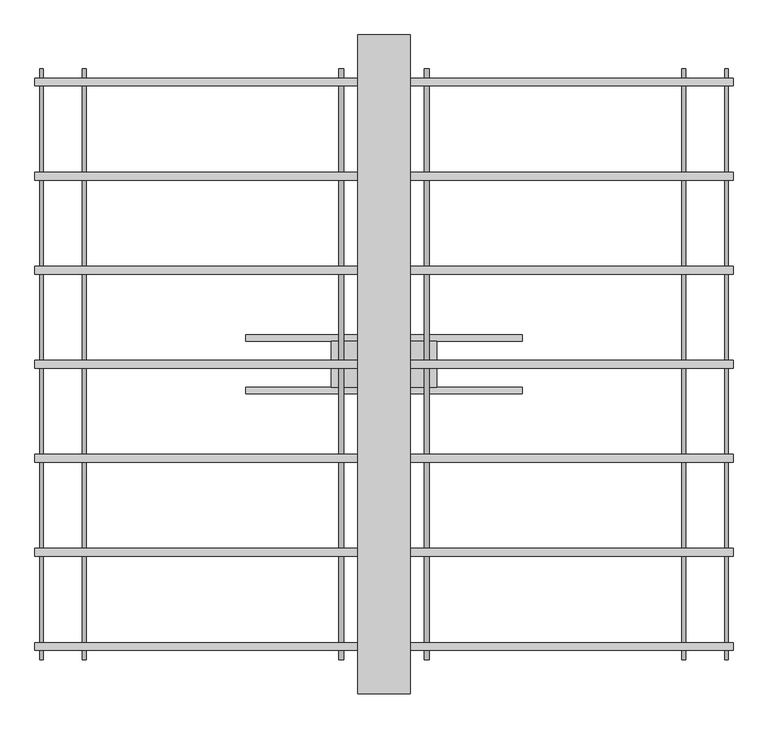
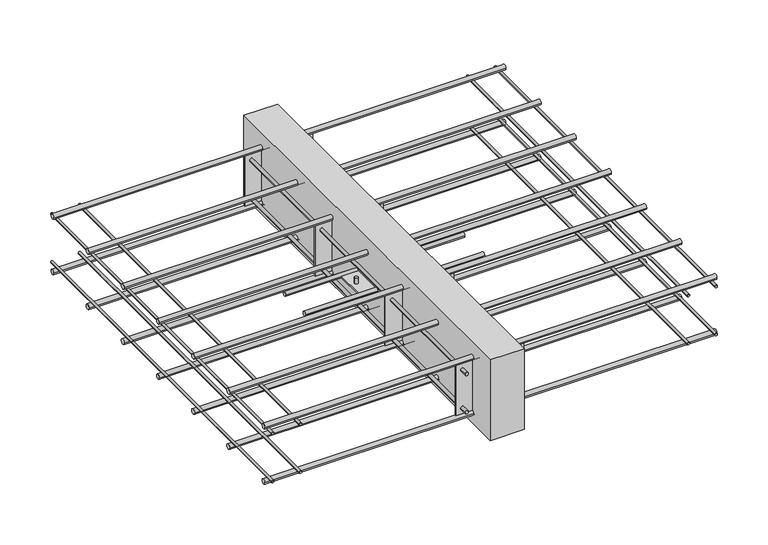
"""IFC4 building model written with IfcOpenShell, lengths in millimetres: fastener geometry, ACINOXplus_Typenreihe_M : ME+ S1."""

import ifcopenshell
import ifcopenshell.guid

model = None  # the IFC model being written
_history = None  # IfcOwnerHistory: only IFC2X3 demands one
_inside = {}  # id of a spatial element -> (the spatial element, [elements in it])
_under = {}  # id of a project, library or spatial element -> (it, [spatial elements below it])
_declared = {}  # id of a project -> (the project, [libraries it declares])
_typed = {}  # id of a type object -> (the type object, [elements of that type])
_made_of = {}  # id of a material, layer set ... -> (it, [elements and type objects made of it])


def new_model(schema):
    """Start an empty IFC model of exactly this schema.

    Asked for "IFC4X3", IfcOpenShell would pick the latest addendum, in which some entities
    have other attributes; the version numbers below select the first issue.
    IFC2X3 requires an IfcOwnerHistory on every rooted entity: one is made here for all.
    """
    global model, _history
    if schema == "IFC4X3":
        model = ifcopenshell.file(schema_version=(4, 3, 0, 0))
    else:
        model = ifcopenshell.file(schema=schema)
    _inside.clear()
    _under.clear()
    _declared.clear()
    _typed.clear()
    _made_of.clear()
    _history = None
    if model.schema == "IFC2X3":
        org = make("IfcOrganization", Name="unknown")
        user = make(
            "IfcPersonAndOrganization",
            ThePerson=make("IfcPerson", FamilyName="unknown"),
            TheOrganization=org,
        )
        app = make(
            "IfcApplication",
            ApplicationDeveloper=org,
            Version="unknown",
            ApplicationFullName="unknown",
            ApplicationIdentifier="unknown",
        )
        _history = make(
            "IfcOwnerHistory",
            OwningUser=user,
            OwningApplication=app,
            ChangeAction="ADDED",
            CreationDate=0,
        )
    return model


def make(cls, **values):
    """One entity of the class cls with the attributes given. An attribute that is None is left unset."""
    return model.create_entity(
        cls, **{name: value for name, value in values.items() if value is not None}
    )


def rooted(cls, **values):
    """An entity with a GlobalId (a new one), such as an element, a storey or a relation."""
    return make(cls, GlobalId=ifcopenshell.guid.new(), OwnerHistory=_history, **values)


def si_unit(unit_type, name, prefix=None):
    """IfcSIUnit, for example si_unit("LENGTHUNIT", "METRE", prefix="MILLI")."""
    return make("IfcSIUnit", UnitType=unit_type, Prefix=prefix, Name=name)


def assignment(units):
    """IfcUnitAssignment: the units of a project."""
    return None if units is None else make("IfcUnitAssignment", Units=units)


def point(xyz):
    """IfcCartesianPoint."""
    return None if xyz is None else make("IfcCartesianPoint", Coordinates=xyz)


def direction(xyz):
    """IfcDirection."""
    return None if xyz is None else make("IfcDirection", DirectionRatios=xyz)


def frame(location, z_axis=None, x_axis=None):
    """IfcAxis2Placement3D, a coordinate frame: its origin and axes. An axis left out is left unset."""
    return make(
        "IfcAxis2Placement3D",
        Location=point(location),
        Axis=direction(z_axis),
        RefDirection=direction(x_axis),
    )


def frame_2d(location, x_axis=None):
    """IfcAxis2Placement2D, a coordinate frame in the plane: its origin and x axis."""
    return make(
        "IfcAxis2Placement2D", Location=point(location), RefDirection=direction(x_axis)
    )


def origin():
    """The frame at (0, 0, 0) with its axes left unset."""
    return frame((0.0, 0.0, 0.0))


def place(relative_to, where):
    """IfcLocalPlacement: puts the frame where relative to a parent placement (None: the world)."""
    return make(
        "IfcLocalPlacement", PlacementRelTo=relative_to, RelativePlacement=where
    )


def context(
    kind, dimensions, precision=None, world=None, true_north=None, identifier=None
):
    """IfcGeometricRepresentationContext, for example the 3D "Model" context."""
    return make(
        "IfcGeometricRepresentationContext",
        ContextIdentifier=identifier,
        ContextType=kind,
        CoordinateSpaceDimension=dimensions,
        Precision=precision,
        WorldCoordinateSystem=world,
        TrueNorth=true_north,
    )


def project(units=None, contexts=None):
    """IfcProject with its units and contexts."""
    return rooted(
        "IfcProject",
        Name="project",
        RepresentationContexts=contexts,
        UnitsInContext=assignment(units),
    )


def spatial(cls, under=None, at=None, **own):
    """A site, building, storey or space (cls), placed at a placement, below another one or the project."""
    s = rooted(cls, ObjectPlacement=at, **own)
    if under is not None:
        _under.setdefault(under.id(), (under, []))[1].append(s)
    return s


def polyline(points):
    """IfcPolyline through the points."""
    return make("IfcPolyline", Points=[point(p) for p in points])


def circle_curve(where, radius):
    """IfcCircle in the frame where."""
    return make("IfcCircle", Position=where, Radius=radius)


def trimmed(basis, trim1, trim2, sense, master):
    """IfcTrimmedCurve: the piece of a basis curve between two trims."""
    return make(
        "IfcTrimmedCurve",
        BasisCurve=basis,
        Trim1=trim1,
        Trim2=trim2,
        SenseAgreement=sense,
        MasterRepresentation=master,
    )


def segment(curve, same_sense, transition):
    """IfcCompositeCurveSegment."""
    return make(
        "IfcCompositeCurveSegment",
        Transition=transition,
        SameSense=same_sense,
        ParentCurve=curve,
    )


def composite_curve(segments, self_intersect=None):
    """IfcCompositeCurve: segments joined end to end."""
    return make("IfcCompositeCurve", Segments=segments, SelfIntersect=self_intersect)


def outline(outer, holes=None, kind="AREA"):
    """IfcArbitraryClosedProfileDef: a profile drawn as a closed curve; with holes, ...WithVoids."""
    if holes is None:
        return make("IfcArbitraryClosedProfileDef", ProfileType=kind, OuterCurve=outer)
    return make(
        "IfcArbitraryProfileDefWithVoids",
        ProfileType=kind,
        OuterCurve=outer,
        InnerCurves=holes,
    )


def extrude(swept, where, along, depth):
    """IfcExtrudedAreaSolid: the profile swept, set in the frame where, extruded along a direction by depth."""
    return make(
        "IfcExtrudedAreaSolid",
        SweptArea=swept,
        Position=where,
        ExtrudedDirection=direction(along),
        Depth=depth,
    )


def shape(context_of_items, identifier, shape_type, items):
    """IfcShapeRepresentation: the items that make up one representation, for example the "Body"."""
    return make(
        "IfcShapeRepresentation",
        ContextOfItems=context_of_items,
        RepresentationIdentifier=identifier,
        RepresentationType=shape_type,
        Items=items,
    )


def source(mapping_origin, context_of_items, identifier, shape_type, items):
    """IfcRepresentationMap: a shape defined once, which mapped items show again and again."""
    return make(
        "IfcRepresentationMap",
        MappingOrigin=mapping_origin,
        MappedRepresentation=shape(context_of_items, identifier, shape_type, items),
    )


def transform(
    local_origin,
    x_axis=None,
    y_axis=None,
    z_axis=None,
    scale=None,
    scale2=None,
    scale3=None,
    uniform=True,
):
    """IfcCartesianTransformationOperator3D, or its non-uniform kind. x_axis, y_axis, z_axis: its Axis1, 2, 3."""
    if uniform:
        return make(
            "IfcCartesianTransformationOperator3D",
            Axis1=direction(x_axis),
            Axis2=direction(y_axis),
            LocalOrigin=point(local_origin),
            Scale=scale,
            Axis3=direction(z_axis),
        )
    return make(
        "IfcCartesianTransformationOperator3DnonUniform",
        Axis1=direction(x_axis),
        Axis2=direction(y_axis),
        LocalOrigin=point(local_origin),
        Scale=scale,
        Axis3=direction(z_axis),
        Scale2=scale2,
        Scale3=scale3,
    )


def mapped(mapping_source, mapping_target):
    """IfcMappedItem: shows the shape of a source again, moved by a transform."""
    return make(
        "IfcMappedItem", MappingSource=mapping_source, MappingTarget=mapping_target
    )


def made_of(thing, what):
    """Note that an element or type object is made of a material, layer set ...; save() writes the relation."""
    if what is not None:
        _made_of.setdefault(what.id(), (what, []))[1].append(thing)
    return thing


def element(
    cls,
    number,
    at=None,
    inside=None,
    cuts=None,
    type_object=None,
    material=None,
    context=None,
    identifier="Body",
    shape_type=None,
    held_by="IfcProductDefinitionShape",
    body=None,
    shapes=None,
    **own,
):
    """One element of the class cls, such as IfcWall. Its Tag is "e" and its number.

    at: its placement. inside: the storey or other place that contains it. cuts: it is an
    opening in that element (IfcRelVoidsElement). A single representation is given by context,
    identifier, shape_type and body (its items); several are given by shapes. held_by: the class
    of the entity that holds the representations. save() writes the other relations.
    """
    e = rooted(cls, Tag="e%d" % number, ObjectPlacement=at, **own)
    if body is not None:
        shapes = [shape(context, identifier, shape_type, body)]
    if shapes is not None:
        e.Representation = make(held_by, Representations=shapes)
    if inside is not None:
        _inside.setdefault(inside.id(), (inside, []))[1].append(e)
    if cuts is not None:
        rooted(
            "IfcRelVoidsElement", RelatingBuildingElement=cuts, RelatedOpeningElement=e
        )
    if type_object is not None:
        _typed.setdefault(type_object.id(), (type_object, []))[1].append(e)
    return made_of(e, material)


def aggregate(whole, parts):
    """IfcRelAggregates: a whole, such as a stair, and the parts it consists of."""
    return rooted("IfcRelAggregates", RelatingObject=whole, RelatedObjects=parts)


def save(model, path):
    """Write the relations noted so far, then the file.

    IfcRelAggregates (storeys below a building ...), IfcRelContainedInSpatialStructure (elements
    in a storey), IfcRelDefinesByType, IfcRelAssociatesMaterial and IfcRelDeclares: one each for
    every whole, place, type object, material and project.
    """
    for whole, parts in _under.values():
        aggregate(whole, parts)
    for where, things in _inside.values():
        rooted(
            "IfcRelContainedInSpatialStructure",
            RelatedElements=things,
            RelatingStructure=where,
        )
    for kind, things in _typed.values():
        rooted("IfcRelDefinesByType", RelatedObjects=things, RelatingType=kind)
    for what, things in _made_of.values():
        rooted("IfcRelAssociatesMaterial", RelatedObjects=things, RelatingMaterial=what)
    for by, libraries in _declared.values():
        rooted("IfcRelDeclares", RelatingContext=by, RelatedDefinitions=libraries)
    model.write(path)


def plane_surface(at):
    """IfcPlane: the flat surface through the origin of the frame at, square to its z axis."""
    return make("IfcPlane", Position=at)


def cylinder_surface(at, radius):
    """IfcCylindricalSurface: all points at the distance radius from the z axis of the frame at."""
    return make("IfcCylindricalSurface", Position=at, Radius=radius)


def advanced_brep(points, edges, surfaces, faces):
    """IfcAdvancedBrep: a solid bounded by faces that lie on surfaces and meet in shared edges.

    An edge is (start, end): straight between two places in points (the first is 0);
    or (start, end, curve); or (start, end, curve, False) where it runs against its curve.
    A face is (place in surfaces, loops), or (place, loops, False) where it looks against
    its surface's normal. A loop lists edges by number (the first is 1), with a minus sign
    where the edge is run from its end to its start. The first loop is the outer one.
    """
    corners = [point(p) for p in points]
    vertices = [make("IfcVertexPoint", VertexGeometry=c) for c in corners]
    made = []
    for start, end, *more in edges:
        made.append(
            make(
                "IfcEdgeCurve",
                EdgeStart=vertices[start],
                EdgeEnd=vertices[end],
                EdgeGeometry=more[0] if more else make("IfcPolyline", Points=[corners[start], corners[end]]),
                SameSense=more[1] if len(more) > 1 else True,
            )
        )
    hull = []
    for where, loops, *sense in faces:
        bounds = []
        for j, loop in enumerate(loops):
            ring = [make("IfcOrientedEdge", EdgeElement=made[abs(k) - 1], Orientation=k > 0) for k in loop]
            bounds.append(
                make(
                    "IfcFaceOuterBound" if j == 0 else "IfcFaceBound",
                    Bound=make("IfcEdgeLoop", EdgeList=ring),
                    Orientation=True,
                )
            )
        hull.append(make("IfcAdvancedFace", Bounds=bounds, FaceSurface=surfaces[where], SameSense=sense[0] if sense else True))
    return make("IfcAdvancedBrep", Outer=make("IfcClosedShell", CfsFaces=hull))


def fastener_d85a7dbb(model_context):
    return source(origin(), model_context, "Body", "SolidModel", [
        extrude(outline(polyline([(40.0, 500.0), (40.0, -500.0), (-40.0, -500.0), (-40.0, 500.0), (40.0, 500.0)])), frame((0.0, 0.0, -200.0), z_axis=(0.0, 0.0, 1.0), x_axis=(1.0, 0.0, 0.0)), (0.0, 0.0, 1.0), 200.0),
        extrude(outline(composite_curve([segment(trimmed(circle_curve(frame_2d((-40.0, -104.5)), 5.0), [point((-45.0, -104.5))], [point((-35.0, -104.5))], False, "CARTESIAN"), True, "CONTINUOUS"), segment(trimmed(circle_curve(frame_2d((-40.0, -104.5)), 5.0), [point((-35.0, -104.5))], [point((-45.0, -104.5))], False, "CARTESIAN"), True, "CONTINUOUS")], self_intersect=False)), frame((-210.0, 0.0, 0.0), z_axis=(1.0, 0.0, 0.0), x_axis=(0.0, 1.0, 0.0)), (0.0, 0.0, 1.0), 420.0),
        extrude(outline(composite_curve([segment(trimmed(circle_curve(frame_2d((40.0, -104.5)), 5.0), [point((35.0, -104.5))], [point((45.0, -104.5))], False, "CARTESIAN"), True, "CONTINUOUS"), segment(trimmed(circle_curve(frame_2d((40.0, -104.5)), 5.0), [point((45.0, -104.5))], [point((35.0, -104.5))], False, "CARTESIAN"), True, "CONTINUOUS")], self_intersect=False)), frame((-210.0, 0.0, 0.0), z_axis=(1.0, 0.0, 0.0), x_axis=(0.0, 1.0, 0.0)), (0.0, 0.0, 1.0), 420.0),
        advanced_brep(
        [(-69.0, 0.0, -89.5), (-61.0, 0.0, -89.5), (61.0, 0.0, -89.5), (69.0, 0.0, -89.5), (-69.0, 0.0, -119.5), (-61.0, 0.0, -119.5), (61.0, 0.0, -119.5), (69.0, 0.0, -119.5), (-69.0, 0.0, -103.0), (-61.0, 0.0, -103.0), (-61.0, 0.0, -106.0), (-69.0, 0.0, -106.0), (61.0, 0.0, -103.0), (69.0, 0.0, -103.0), (69.0, 0.0, -106.0), (61.0, 0.0, -106.0), (80.0, 35.0, -103.0), (-80.0, 35.0, -103.0), (-80.0, -35.0, -103.0), (80.0, -35.0, -103.0), (80.0, 35.0, -106.0), (80.0, -35.0, -106.0), (-80.0, -35.0, -106.0), (-80.0, 35.0, -106.0)],
        [
            (0, 1, circle_curve(frame((-65.0, 0.0, -89.5), z_axis=(0.0, 0.0, 1.0), x_axis=(1.0, 0.0, 0.0)), 4.0)),
            (1, 0, circle_curve(frame((-65.0, 0.0, -89.5), z_axis=(0.0, 0.0, 1.0), x_axis=(1.0, 0.0, 0.0)), 4.0)),
            (2, 3, circle_curve(frame((65.0, 0.0, -89.5), z_axis=(0.0, 0.0, 1.0), x_axis=(1.0, 0.0, 0.0)), 4.0)),
            (3, 2, circle_curve(frame((65.0, 0.0, -89.5), z_axis=(0.0, 0.0, 1.0), x_axis=(1.0, 0.0, 0.0)), 4.0)),
            (4, 5, circle_curve(frame((-65.0, 0.0, -119.5), z_axis=(0.0, 0.0, -1.0), x_axis=(1.0, 0.0, 0.0)), 4.0)),
            (5, 4, circle_curve(frame((-65.0, 0.0, -119.5), z_axis=(0.0, 0.0, -1.0), x_axis=(1.0, 0.0, 0.0)), 4.0)),
            (6, 7, circle_curve(frame((65.0, 0.0, -119.5), z_axis=(0.0, 0.0, -1.0), x_axis=(1.0, 0.0, 0.0)), 4.0)),
            (7, 6, circle_curve(frame((65.0, 0.0, -119.5), z_axis=(0.0, 0.0, -1.0), x_axis=(1.0, 0.0, 0.0)), 4.0)),
            (0, 8),
            (8, 9, circle_curve(frame((-65.0, 0.0, -103.0), z_axis=(0.0, 0.0, 1.0), x_axis=(1.0, 0.0, 0.0)), 4.0)),
            (9, 1),
            (5, 10),
            (10, 11, circle_curve(frame((-65.0, 0.0, -106.0), z_axis=(0.0, 0.0, -1.0), x_axis=(1.0, 0.0, 0.0)), 4.0)),
            (11, 4),
            (9, 8, circle_curve(frame((-65.0, 0.0, -103.0), z_axis=(0.0, 0.0, 1.0), x_axis=(1.0, 0.0, 0.0)), 4.0)),
            (11, 10, circle_curve(frame((-65.0, 0.0, -106.0), z_axis=(0.0, 0.0, -1.0), x_axis=(1.0, 0.0, 0.0)), 4.0)),
            (2, 12),
            (12, 13, circle_curve(frame((65.0, 0.0, -103.0), z_axis=(0.0, 0.0, 1.0), x_axis=(1.0, 0.0, 0.0)), 4.0)),
            (13, 3),
            (7, 14),
            (14, 15, circle_curve(frame((65.0, 0.0, -106.0), z_axis=(0.0, 0.0, -1.0), x_axis=(1.0, 0.0, 0.0)), 4.0)),
            (15, 6),
            (13, 12, circle_curve(frame((65.0, 0.0, -103.0), z_axis=(0.0, 0.0, 1.0), x_axis=(1.0, 0.0, 0.0)), 4.0)),
            (15, 14, circle_curve(frame((65.0, 0.0, -106.0), z_axis=(0.0, 0.0, -1.0), x_axis=(1.0, 0.0, 0.0)), 4.0)),
            (16, 17),
            (17, 18),
            (18, 19),
            (19, 16),
            (20, 21),
            (21, 22),
            (22, 23),
            (23, 20),
            (16, 20),
            (23, 17),
            (22, 18),
            (21, 19),
        ],
        [
            plane_surface(frame((-61.0, 0.0, -89.5), z_axis=(0.0, 0.0, 1.0), x_axis=(0.0, 1.0, 0.0))),
            plane_surface(frame((-61.0, 0.0, -119.5), z_axis=(0.0, 0.0, -1.0), x_axis=(0.0, -1.0, 0.0))),
            cylinder_surface(frame((-65.0, 0.0, -119.5), z_axis=(0.0, 0.0, 1.0), x_axis=(1.0, 0.0, 0.0)), 4.0),
            cylinder_surface(frame((65.0, 0.0, -104.5), z_axis=(0.0, 0.0, 1.0), x_axis=(1.0, 0.0, 0.0)), 4.0),
            plane_surface(frame((-80.0, 35.0, -103.0), z_axis=(0.0, 0.0, 1.0), x_axis=(-1.0, 0.0, 0.0))),
            plane_surface(frame((-80.0, 35.0, -106.0), z_axis=(0.0, 0.0, -1.0), x_axis=(1.0, 0.0, 0.0))),
            plane_surface(frame((80.0, 35.0, -103.0), z_axis=(0.0, 1.0, 0.0), x_axis=(0.0, 0.0, -1.0))),
            plane_surface(frame((-80.0, 35.0, -103.0), z_axis=(-1.0, 0.0, 0.0), x_axis=(0.0, 0.0, -1.0))),
            plane_surface(frame((-80.0, -35.0, -103.0), z_axis=(0.0, -1.0, 0.0), x_axis=(0.0, 0.0, -1.0))),
            plane_surface(frame((80.0, -35.0, -103.0), z_axis=(1.0, 0.0, 0.0), x_axis=(0.0, 0.0, -1.0))),
        ],
        [
            (0, [[1, 2]]),
            (0, [[3, 4]]),
            (1, [[5, 6]]),
            (1, [[7, 8]]),
            (2, [[-1, 9, 10, 11]]),
            (2, [[-6, 12, 13, 14]]),
            (2, [[-2, -11, 15, -9]]),
            (2, [[-5, -14, 16, -12]]),
            (3, [[-3, 17, 18, 19]]),
            (3, [[-8, 20, 21, 22]]),
            (3, [[-4, -19, 23, -17]]),
            (3, [[-7, -22, 24, -20]]),
            (4, [[25, 26, 27, 28], [-10, -15], [-18, -23]]),
            (5, [[29, 30, 31, 32], [-13, -16], [-21, -24]]),
            (6, [[-25, 33, -32, 34]]),
            (7, [[-26, -34, -31, 35]]),
            (8, [[-27, -35, -30, 36]]),
            (9, [[-28, -36, -29, -33]]),
        ],
    ),
        extrude(outline(polyline([(80.0, -141.3571429), (80.0, -144.3571429), (-80.0, -144.3571429), (-80.0, -141.3571429), (80.0, -141.3571429)])), frame((0.0, 0.0, -167.0), z_axis=(0.0, 0.0, 1.0), x_axis=(1.0, 0.0, 0.0)), (0.0, 0.0, 1.0), 125.0),
        extrude(outline(polyline([(80.0, 144.3571429), (80.0, 141.3571429), (-80.0, 141.3571429), (-80.0, 144.3571429), (80.0, 144.3571429)])), frame((0.0, 0.0, -167.0), z_axis=(0.0, 0.0, 1.0), x_axis=(1.0, 0.0, 0.0)), (0.0, 0.0, 1.0), 125.0),
        extrude(outline(polyline([(80.0, -427.0714286), (80.0, -430.0714286), (-80.0, -430.0714286), (-80.0, -427.0714286), (80.0, -427.0714286)])), frame((0.0, 0.0, -167.0), z_axis=(0.0, 0.0, 1.0), x_axis=(1.0, 0.0, 0.0)), (0.0, 0.0, 1.0), 125.0),
        extrude(outline(polyline([(80.0, 430.0714286), (80.0, 427.0714286), (-80.0, 427.0714286), (-80.0, 430.0714286), (80.0, 430.0714286)])), frame((0.0, 0.0, -167.0), z_axis=(0.0, 0.0, 1.0), x_axis=(1.0, 0.0, 0.0)), (0.0, 0.0, 1.0), 125.0),
        extrude(outline(composite_curve([segment(trimmed(circle_curve(frame_2d((-152.0, -65.0)), 4.0), [point((-152.0, -61.0))], [point((-152.0, -69.0))], False, "CARTESIAN"), True, "CONTINUOUS"), segment(trimmed(circle_curve(frame_2d((-152.0, -65.0)), 4.0), [point((-152.0, -69.0))], [point((-152.0, -61.0))], False, "CARTESIAN"), True, "CONTINUOUS")], self_intersect=False)), frame((0.0, -448.5714286, 0.0), z_axis=(0.0, 1.0, 0.0), x_axis=(0.0, 0.0, 1.0)), (0.0, 0.0, 1.0), 18.5),
        extrude(outline(composite_curve([segment(trimmed(circle_curve(frame_2d((-152.0, -65.0)), 4.0), [point((-152.0, -69.0))], [point((-152.0, -61.0))], False, "CARTESIAN"), True, "CONTINUOUS"), segment(trimmed(circle_curve(frame_2d((-152.0, -65.0)), 4.0), [point((-152.0, -61.0))], [point((-152.0, -69.0))], False, "CARTESIAN"), True, "CONTINUOUS")], self_intersect=False)), frame((0.0, -427.0714286, 0.0), z_axis=(0.0, 1.0, 0.0), x_axis=(0.0, 0.0, 1.0)), (0.0, 0.0, 1.0), 568.4285714),
        extrude(outline(composite_curve([segment(trimmed(circle_curve(frame_2d((-152.0, -65.0)), 4.0), [point((-152.0, -69.0))], [point((-152.0, -61.0))], False, "CARTESIAN"), True, "CONTINUOUS"), segment(trimmed(circle_curve(frame_2d((-152.0, -65.0)), 4.0), [point((-152.0, -61.0))], [point((-152.0, -69.0))], False, "CARTESIAN"), True, "CONTINUOUS")], self_intersect=False)), frame((0.0, 430.0714286, 0.0), z_axis=(0.0, 1.0, 0.0), x_axis=(0.0, 0.0, 1.0)), (0.0, 0.0, 1.0), 18.5),
        extrude(outline(composite_curve([segment(trimmed(circle_curve(frame_2d((-152.0, -65.0)), 4.0), [point((-152.0, -69.0))], [point((-152.0, -61.0))], False, "CARTESIAN"), True, "CONTINUOUS"), segment(trimmed(circle_curve(frame_2d((-152.0, -65.0)), 4.0), [point((-152.0, -61.0))], [point((-152.0, -69.0))], False, "CARTESIAN"), True, "CONTINUOUS")], self_intersect=False)), frame((0.0, 144.3571429, 0.0), z_axis=(0.0, 1.0, 0.0), x_axis=(0.0, 0.0, 1.0)), (0.0, 0.0, 1.0), 282.7142857),
        extrude(outline(composite_curve([segment(trimmed(circle_curve(frame_2d((-152.0, 65.0)), 4.0), [point((-152.0, 69.0))], [point((-152.0, 61.0))], False, "CARTESIAN"), True, "CONTINUOUS"), segment(trimmed(circle_curve(frame_2d((-152.0, 65.0)), 4.0), [point((-152.0, 61.0))], [point((-152.0, 69.0))], False, "CARTESIAN"), True, "CONTINUOUS")], self_intersect=False)), frame((0.0, -448.5714286, 0.0), z_axis=(0.0, 1.0, 0.0), x_axis=(0.0, 0.0, 1.0)), (0.0, 0.0, 1.0), 18.5),
        extrude(outline(composite_curve([segment(trimmed(circle_curve(frame_2d((-152.0, 65.0)), 4.0), [point((-152.0, 61.0))], [point((-152.0, 69.0))], False, "CARTESIAN"), True, "CONTINUOUS"), segment(trimmed(circle_curve(frame_2d((-152.0, 65.0)), 4.0), [point((-152.0, 69.0))], [point((-152.0, 61.0))], False, "CARTESIAN"), True, "CONTINUOUS")], self_intersect=False)), frame((0.0, -427.0714286, 0.0), z_axis=(0.0, 1.0, 0.0), x_axis=(0.0, 0.0, 1.0)), (0.0, 0.0, 1.0), 568.4285714),
        extrude(outline(composite_curve([segment(trimmed(circle_curve(frame_2d((-152.0, 65.0)), 4.0), [point((-152.0, 61.0))], [point((-152.0, 69.0))], False, "CARTESIAN"), True, "CONTINUOUS"), segment(trimmed(circle_curve(frame_2d((-152.0, 65.0)), 4.0), [point((-152.0, 69.0))], [point((-152.0, 61.0))], False, "CARTESIAN"), True, "CONTINUOUS")], self_intersect=False)), frame((0.0, 430.0714286, 0.0), z_axis=(0.0, 1.0, 0.0), x_axis=(0.0, 0.0, 1.0)), (0.0, 0.0, 1.0), 18.5),
        extrude(outline(composite_curve([segment(trimmed(circle_curve(frame_2d((-152.0, 65.0)), 4.0), [point((-152.0, 61.0))], [point((-152.0, 69.0))], False, "CARTESIAN"), True, "CONTINUOUS"), segment(trimmed(circle_curve(frame_2d((-152.0, 65.0)), 4.0), [point((-152.0, 69.0))], [point((-152.0, 61.0))], False, "CARTESIAN"), True, "CONTINUOUS")], self_intersect=False)), frame((0.0, 144.3571429, 0.0), z_axis=(0.0, 1.0, 0.0), x_axis=(0.0, 0.0, 1.0)), (0.0, 0.0, 1.0), 282.7142857),
        extrude(outline(composite_curve([segment(trimmed(circle_curve(frame_2d((-57.0, -65.0)), 4.0), [point((-57.0, -61.0))], [point((-57.0, -69.0))], False, "CARTESIAN"), True, "CONTINUOUS"), segment(trimmed(circle_curve(frame_2d((-57.0, -65.0)), 4.0), [point((-57.0, -69.0))], [point((-57.0, -61.0))], False, "CARTESIAN"), True, "CONTINUOUS")], self_intersect=False)), frame((0.0, -448.5714286, 0.0), z_axis=(0.0, 1.0, 0.0), x_axis=(0.0, 0.0, 1.0)), (0.0, 0.0, 1.0), 18.5),
        extrude(outline(composite_curve([segment(trimmed(circle_curve(frame_2d((-57.0, -65.0)), 4.0), [point((-57.0, -69.0))], [point((-57.0, -61.0))], False, "CARTESIAN"), True, "CONTINUOUS"), segment(trimmed(circle_curve(frame_2d((-57.0, -65.0)), 4.0), [point((-57.0, -61.0))], [point((-57.0, -69.0))], False, "CARTESIAN"), True, "CONTINUOUS")], self_intersect=False)), frame((0.0, -427.0714286, 0.0), z_axis=(0.0, 1.0, 0.0), x_axis=(0.0, 0.0, 1.0)), (0.0, 0.0, 1.0), 568.4285714),
        extrude(outline(composite_curve([segment(trimmed(circle_curve(frame_2d((-57.0, -65.0)), 4.0), [point((-57.0, -69.0))], [point((-57.0, -61.0))], False, "CARTESIAN"), True, "CONTINUOUS"), segment(trimmed(circle_curve(frame_2d((-57.0, -65.0)), 4.0), [point((-57.0, -61.0))], [point((-57.0, -69.0))], False, "CARTESIAN"), True, "CONTINUOUS")], self_intersect=False)), frame((0.0, 430.0714286, 0.0), z_axis=(0.0, 1.0, 0.0), x_axis=(0.0, 0.0, 1.0)), (0.0, 0.0, 1.0), 18.5),
        extrude(outline(composite_curve([segment(trimmed(circle_curve(frame_2d((-57.0, -65.0)), 4.0), [point((-57.0, -69.0))], [point((-57.0, -61.0))], False, "CARTESIAN"), True, "CONTINUOUS"), segment(trimmed(circle_curve(frame_2d((-57.0, -65.0)), 4.0), [point((-57.0, -61.0))], [point((-57.0, -69.0))], False, "CARTESIAN"), True, "CONTINUOUS")], self_intersect=False)), frame((0.0, 144.3571429, 0.0), z_axis=(0.0, 1.0, 0.0), x_axis=(0.0, 0.0, 1.0)), (0.0, 0.0, 1.0), 282.7142857),
        extrude(outline(composite_curve([segment(trimmed(circle_curve(frame_2d((-57.0, 65.0)), 4.0), [point((-57.0, 69.0))], [point((-57.0, 61.0))], False, "CARTESIAN"), True, "CONTINUOUS"), segment(trimmed(circle_curve(frame_2d((-57.0, 65.0)), 4.0), [point((-57.0, 61.0))], [point((-57.0, 69.0))], False, "CARTESIAN"), True, "CONTINUOUS")], self_intersect=False)), frame((0.0, -448.5714286, 0.0), z_axis=(0.0, 1.0, 0.0), x_axis=(0.0, 0.0, 1.0)), (0.0, 0.0, 1.0), 18.5),
        extrude(outline(composite_curve([segment(trimmed(circle_curve(frame_2d((-57.0, 65.0)), 4.0), [point((-57.0, 61.0))], [point((-57.0, 69.0))], False, "CARTESIAN"), True, "CONTINUOUS"), segment(trimmed(circle_curve(frame_2d((-57.0, 65.0)), 4.0), [point((-57.0, 69.0))], [point((-57.0, 61.0))], False, "CARTESIAN"), True, "CONTINUOUS")], self_intersect=False)), frame((0.0, -427.0714286, 0.0), z_axis=(0.0, 1.0, 0.0), x_axis=(0.0, 0.0, 1.0)), (0.0, 0.0, 1.0), 568.4285714),
        extrude(outline(composite_curve([segment(trimmed(circle_curve(frame_2d((-57.0, 65.0)), 4.0), [point((-57.0, 61.0))], [point((-57.0, 69.0))], False, "CARTESIAN"), True, "CONTINUOUS"), segment(trimmed(circle_curve(frame_2d((-57.0, 65.0)), 4.0), [point((-57.0, 69.0))], [point((-57.0, 61.0))], False, "CARTESIAN"), True, "CONTINUOUS")], self_intersect=False)), frame((0.0, 430.0714286, 0.0), z_axis=(0.0, 1.0, 0.0), x_axis=(0.0, 0.0, 1.0)), (0.0, 0.0, 1.0), 18.5),
        extrude(outline(composite_curve([segment(trimmed(circle_curve(frame_2d((-57.0, 65.0)), 4.0), [point((-57.0, 61.0))], [point((-57.0, 69.0))], False, "CARTESIAN"), True, "CONTINUOUS"), segment(trimmed(circle_curve(frame_2d((-57.0, 65.0)), 4.0), [point((-57.0, 69.0))], [point((-57.0, 61.0))], False, "CARTESIAN"), True, "CONTINUOUS")], self_intersect=False)), frame((0.0, 144.3571429, 0.0), z_axis=(0.0, 1.0, 0.0), x_axis=(0.0, 0.0, 1.0)), (0.0, 0.0, 1.0), 282.7142857),
        extrude(outline(composite_curve([segment(trimmed(circle_curve(frame_2d((142.8571429, -173.0)), 6.0), [point((136.8571429, -173.0))], [point((148.8571429, -173.0))], False, "CARTESIAN"), True, "CONTINUOUS"), segment(trimmed(circle_curve(frame_2d((142.8571429, -173.0)), 6.0), [point((148.8571429, -173.0))], [point((136.8571429, -173.0))], False, "CARTESIAN"), True, "CONTINUOUS")], self_intersect=False)), frame((-530.0, 0.0, 0.0), z_axis=(1.0, 0.0, 0.0), x_axis=(0.0, 1.0, 0.0)), (0.0, 0.0, 1.0), 1060.0),
        extrude(outline(composite_curve([segment(trimmed(circle_curve(frame_2d((0.0, -173.0)), 6.0), [point((-6.0, -173.0))], [point((6.0, -173.0))], False, "CARTESIAN"), True, "CONTINUOUS"), segment(trimmed(circle_curve(frame_2d((0.0, -173.0)), 6.0), [point((6.0, -173.0))], [point((-6.0, -173.0))], False, "CARTESIAN"), True, "CONTINUOUS")], self_intersect=False)), frame((-530.0, 0.0, 0.0), z_axis=(1.0, 0.0, 0.0), x_axis=(0.0, 1.0, 0.0)), (0.0, 0.0, 1.0), 1060.0),
        extrude(outline(composite_curve([segment(trimmed(circle_curve(frame_2d((-142.8571429, -173.0)), 6.0), [point((-148.8571429, -173.0))], [point((-136.8571429, -173.0))], False, "CARTESIAN"), True, "CONTINUOUS"), segment(trimmed(circle_curve(frame_2d((-142.8571429, -173.0)), 6.0), [point((-136.8571429, -173.0))], [point((-148.8571429, -173.0))], False, "CARTESIAN"), True, "CONTINUOUS")], self_intersect=False)), frame((-530.0, 0.0, 0.0), z_axis=(1.0, 0.0, 0.0), x_axis=(0.0, 1.0, 0.0)), (0.0, 0.0, 1.0), 1060.0),
        extrude(outline(composite_curve([segment(trimmed(circle_curve(frame_2d((285.7142857, -173.0)), 6.0), [point((279.7142857, -173.0))], [point((291.7142857, -173.0))], False, "CARTESIAN"), True, "CONTINUOUS"), segment(trimmed(circle_curve(frame_2d((285.7142857, -173.0)), 6.0), [point((291.7142857, -173.0))], [point((279.7142857, -173.0))], False, "CARTESIAN"), True, "CONTINUOUS")], self_intersect=False)), frame((-530.0, 0.0, 0.0), z_axis=(1.0, 0.0, 0.0), x_axis=(0.0, 1.0, 0.0)), (0.0, 0.0, 1.0), 1060.0),
        extrude(outline(composite_curve([segment(trimmed(circle_curve(frame_2d((428.5714286, -173.0)), 6.0), [point((422.5714286, -173.0))], [point((434.5714286, -173.0))], False, "CARTESIAN"), True, "CONTINUOUS"), segment(trimmed(circle_curve(frame_2d((428.5714286, -173.0)), 6.0), [point((434.5714286, -173.0))], [point((422.5714286, -173.0))], False, "CARTESIAN"), True, "CONTINUOUS")], self_intersect=False)), frame((-530.0, 0.0, 0.0), z_axis=(1.0, 0.0, 0.0), x_axis=(0.0, 1.0, 0.0)), (0.0, 0.0, 1.0), 1060.0),
        extrude(outline(composite_curve([segment(trimmed(circle_curve(frame_2d((-285.7142857, -173.0)), 6.0), [point((-291.7142857, -173.0))], [point((-279.7142857, -173.0))], False, "CARTESIAN"), True, "CONTINUOUS"), segment(trimmed(circle_curve(frame_2d((-285.7142857, -173.0)), 6.0), [point((-279.7142857, -173.0))], [point((-291.7142857, -173.0))], False, "CARTESIAN"), True, "CONTINUOUS")], self_intersect=False)), frame((-530.0, 0.0, 0.0), z_axis=(1.0, 0.0, 0.0), x_axis=(0.0, 1.0, 0.0)), (0.0, 0.0, 1.0), 1060.0),
        extrude(outline(composite_curve([segment(trimmed(circle_curve(frame_2d((-428.5714286, -173.0)), 6.0), [point((-434.5714286, -173.0))], [point((-422.5714286, -173.0))], False, "CARTESIAN"), True, "CONTINUOUS"), segment(trimmed(circle_curve(frame_2d((-428.5714286, -173.0)), 6.0), [point((-422.5714286, -173.0))], [point((-434.5714286, -173.0))], False, "CARTESIAN"), True, "CONTINUOUS")], self_intersect=False)), frame((-530.0, 0.0, 0.0), z_axis=(1.0, 0.0, 0.0), x_axis=(0.0, 1.0, 0.0)), (0.0, 0.0, 1.0), 1060.0),
        extrude(outline(composite_curve([segment(trimmed(circle_curve(frame_2d((142.8571429, -36.0)), 6.0), [point((136.8571429, -36.0))], [point((148.8571429, -36.0))], False, "CARTESIAN"), True, "CONTINUOUS"), segment(trimmed(circle_curve(frame_2d((142.8571429, -36.0)), 6.0), [point((148.8571429, -36.0))], [point((136.8571429, -36.0))], False, "CARTESIAN"), True, "CONTINUOUS")], self_intersect=False)), frame((-530.0, 0.0, 0.0), z_axis=(1.0, 0.0, 0.0), x_axis=(0.0, 1.0, 0.0)), (0.0, 0.0, 1.0), 1060.0),
        extrude(outline(composite_curve([segment(trimmed(circle_curve(frame_2d((0.0, -36.0)), 6.0), [point((-6.0, -36.0))], [point((6.0, -36.0))], False, "CARTESIAN"), True, "CONTINUOUS"), segment(trimmed(circle_curve(frame_2d((0.0, -36.0)), 6.0), [point((6.0, -36.0))], [point((-6.0, -36.0))], False, "CARTESIAN"), True, "CONTINUOUS")], self_intersect=False)), frame((-530.0, 0.0, 0.0), z_axis=(1.0, 0.0, 0.0), x_axis=(0.0, 1.0, 0.0)), (0.0, 0.0, 1.0), 1060.0),
        extrude(outline(composite_curve([segment(trimmed(circle_curve(frame_2d((-142.8571429, -36.0)), 6.0), [point((-148.8571429, -36.0))], [point((-136.8571429, -36.0))], False, "CARTESIAN"), True, "CONTINUOUS"), segment(trimmed(circle_curve(frame_2d((-142.8571429, -36.0)), 6.0), [point((-136.8571429, -36.0))], [point((-148.8571429, -36.0))], False, "CARTESIAN"), True, "CONTINUOUS")], self_intersect=False)), frame((-530.0, 0.0, 0.0), z_axis=(1.0, 0.0, 0.0), x_axis=(0.0, 1.0, 0.0)), (0.0, 0.0, 1.0), 1060.0),
        extrude(outline(composite_curve([segment(trimmed(circle_curve(frame_2d((285.7142857, -36.0)), 6.0), [point((279.7142857, -36.0))], [point((291.7142857, -36.0))], False, "CARTESIAN"), True, "CONTINUOUS"), segment(trimmed(circle_curve(frame_2d((285.7142857, -36.0)), 6.0), [point((291.7142857, -36.0))], [point((279.7142857, -36.0))], False, "CARTESIAN"), True, "CONTINUOUS")], self_intersect=False)), frame((-530.0, 0.0, 0.0), z_axis=(1.0, 0.0, 0.0), x_axis=(0.0, 1.0, 0.0)), (0.0, 0.0, 1.0), 1060.0),
        extrude(outline(composite_curve([segment(trimmed(circle_curve(frame_2d((428.5714286, -36.0)), 6.0), [point((422.5714286, -36.0))], [point((434.5714286, -36.0))], False, "CARTESIAN"), True, "CONTINUOUS"), segment(trimmed(circle_curve(frame_2d((428.5714286, -36.0)), 6.0), [point((434.5714286, -36.0))], [point((422.5714286, -36.0))], False, "CARTESIAN"), True, "CONTINUOUS")], self_intersect=False)), frame((-530.0, 0.0, 0.0), z_axis=(1.0, 0.0, 0.0), x_axis=(0.0, 1.0, 0.0)), (0.0, 0.0, 1.0), 1060.0),
        extrude(outline(composite_curve([segment(trimmed(circle_curve(frame_2d((-285.7142857, -36.0)), 6.0), [point((-291.7142857, -36.0))], [point((-279.7142857, -36.0))], False, "CARTESIAN"), True, "CONTINUOUS"), segment(trimmed(circle_curve(frame_2d((-285.7142857, -36.0)), 6.0), [point((-279.7142857, -36.0))], [point((-291.7142857, -36.0))], False, "CARTESIAN"), True, "CONTINUOUS")], self_intersect=False)), frame((-530.0, 0.0, 0.0), z_axis=(1.0, 0.0, 0.0), x_axis=(0.0, 1.0, 0.0)), (0.0, 0.0, 1.0), 1060.0),
        extrude(outline(composite_curve([segment(trimmed(circle_curve(frame_2d((-428.5714286, -36.0)), 6.0), [point((-434.5714286, -36.0))], [point((-422.5714286, -36.0))], False, "CARTESIAN"), True, "CONTINUOUS"), segment(trimmed(circle_curve(frame_2d((-428.5714286, -36.0)), 6.0), [point((-422.5714286, -36.0))], [point((-434.5714286, -36.0))], False, "CARTESIAN"), True, "CONTINUOUS")], self_intersect=False)), frame((-530.0, 0.0, 0.0), z_axis=(1.0, 0.0, 0.0), x_axis=(0.0, 1.0, 0.0)), (0.0, 0.0, 1.0), 1060.0),
        extrude(outline(composite_curve([segment(trimmed(circle_curve(frame_2d((-164.0, -520.0)), 3.0), [point((-164.0, -517.0))], [point((-164.0, -523.0))], False, "CARTESIAN"), True, "CONTINUOUS"), segment(trimmed(circle_curve(frame_2d((-164.0, -520.0)), 3.0), [point((-164.0, -523.0))], [point((-164.0, -517.0))], False, "CARTESIAN"), True, "CONTINUOUS")], self_intersect=False)), frame((0.0, -448.5714286, 0.0), z_axis=(0.0, 1.0, 0.0), x_axis=(0.0, 0.0, 1.0)), (0.0, 0.0, 1.0), 897.1428571),
        extrude(outline(composite_curve([segment(trimmed(circle_curve(frame_2d((-164.0, -455.0)), 3.0), [point((-164.0, -452.0))], [point((-164.0, -458.0))], False, "CARTESIAN"), True, "CONTINUOUS"), segment(trimmed(circle_curve(frame_2d((-164.0, -455.0)), 3.0), [point((-164.0, -458.0))], [point((-164.0, -452.0))], False, "CARTESIAN"), True, "CONTINUOUS")], self_intersect=False)), frame((0.0, -448.5714286, 0.0), z_axis=(0.0, 1.0, 0.0), x_axis=(0.0, 0.0, 1.0)), (0.0, 0.0, 1.0), 897.1428571),
        extrude(outline(composite_curve([segment(trimmed(circle_curve(frame_2d((-164.0, 455.0)), 3.0), [point((-164.0, 458.0))], [point((-164.0, 452.0))], False, "CARTESIAN"), True, "CONTINUOUS"), segment(trimmed(circle_curve(frame_2d((-164.0, 455.0)), 3.0), [point((-164.0, 452.0))], [point((-164.0, 458.0))], False, "CARTESIAN"), True, "CONTINUOUS")], self_intersect=False)), frame((0.0, -448.5714286, 0.0), z_axis=(0.0, 1.0, 0.0), x_axis=(0.0, 0.0, 1.0)), (0.0, 0.0, 1.0), 897.1428571),
        extrude(outline(composite_curve([segment(trimmed(circle_curve(frame_2d((-164.0, 520.0)), 3.0), [point((-164.0, 523.0))], [point((-164.0, 517.0))], False, "CARTESIAN"), True, "CONTINUOUS"), segment(trimmed(circle_curve(frame_2d((-164.0, 520.0)), 3.0), [point((-164.0, 517.0))], [point((-164.0, 523.0))], False, "CARTESIAN"), True, "CONTINUOUS")], self_intersect=False)), frame((0.0, -448.5714286, 0.0), z_axis=(0.0, 1.0, 0.0), x_axis=(0.0, 0.0, 1.0)), (0.0, 0.0, 1.0), 897.1428571),
        extrude(outline(composite_curve([segment(trimmed(circle_curve(frame_2d((-45.0, 455.0)), 3.0), [point((-45.0, 458.0))], [point((-45.0, 452.0))], False, "CARTESIAN"), True, "CONTINUOUS"), segment(trimmed(circle_curve(frame_2d((-45.0, 455.0)), 3.0), [point((-45.0, 452.0))], [point((-45.0, 458.0))], False, "CARTESIAN"), True, "CONTINUOUS")], self_intersect=False)), frame((0.0, -448.5714286, 0.0), z_axis=(0.0, 1.0, 0.0), x_axis=(0.0, 0.0, 1.0)), (0.0, 0.0, 1.0), 897.1428571),
        extrude(outline(composite_curve([segment(trimmed(circle_curve(frame_2d((-45.0, 520.0)), 3.0), [point((-45.0, 523.0))], [point((-45.0, 517.0))], False, "CARTESIAN"), True, "CONTINUOUS"), segment(trimmed(circle_curve(frame_2d((-45.0, 520.0)), 3.0), [point((-45.0, 517.0))], [point((-45.0, 523.0))], False, "CARTESIAN"), True, "CONTINUOUS")], self_intersect=False)), frame((0.0, -448.5714286, 0.0), z_axis=(0.0, 1.0, 0.0), x_axis=(0.0, 0.0, 1.0)), (0.0, 0.0, 1.0), 897.1428571),
        extrude(outline(composite_curve([segment(trimmed(circle_curve(frame_2d((-45.0, -520.0)), 3.0), [point((-45.0, -517.0))], [point((-45.0, -523.0))], False, "CARTESIAN"), True, "CONTINUOUS"), segment(trimmed(circle_curve(frame_2d((-45.0, -520.0)), 3.0), [point((-45.0, -523.0))], [point((-45.0, -517.0))], False, "CARTESIAN"), True, "CONTINUOUS")], self_intersect=False)), frame((0.0, -448.5714286, 0.0), z_axis=(0.0, 1.0, 0.0), x_axis=(0.0, 0.0, 1.0)), (0.0, 0.0, 1.0), 897.1428571),
        extrude(outline(composite_curve([segment(trimmed(circle_curve(frame_2d((-45.0, -455.0)), 3.0), [point((-45.0, -452.0))], [point((-45.0, -458.0))], False, "CARTESIAN"), True, "CONTINUOUS"), segment(trimmed(circle_curve(frame_2d((-45.0, -455.0)), 3.0), [point((-45.0, -458.0))], [point((-45.0, -452.0))], False, "CARTESIAN"), True, "CONTINUOUS")], self_intersect=False)), frame((0.0, -448.5714286, 0.0), z_axis=(0.0, 1.0, 0.0), x_axis=(0.0, 0.0, 1.0)), (0.0, 0.0, 1.0), 897.1428571),
    ])


if __name__ == "__main__":
    model = new_model("IFC4")
    model_context = context("Model", 3, world=origin())
    ifc_project = project(units=[si_unit("LENGTHUNIT", "METRE", prefix="MILLI")], contexts=[model_context])
    site = spatial("IfcSite", under=ifc_project)
    building = spatial("IfcBuilding", under=site)
    placement = place(None, origin())
    fastener_shape = fastener_d85a7dbb(model_context)
    element("IfcFastener", 1, ObjectType="ACINOXplus_Typenreihe_M : ME+ S1", at=placement, inside=building, context=model_context, shape_type="MappedRepresentation", body=[
        mapped(fastener_shape, transform((0.0, 0.0, 0.0), x_axis=(1.0, 0.0, 0.0), y_axis=(0.0, 1.0, 0.0), z_axis=(0.0, 0.0, 1.0))),
    ])
    save(model, "model.ifc")
